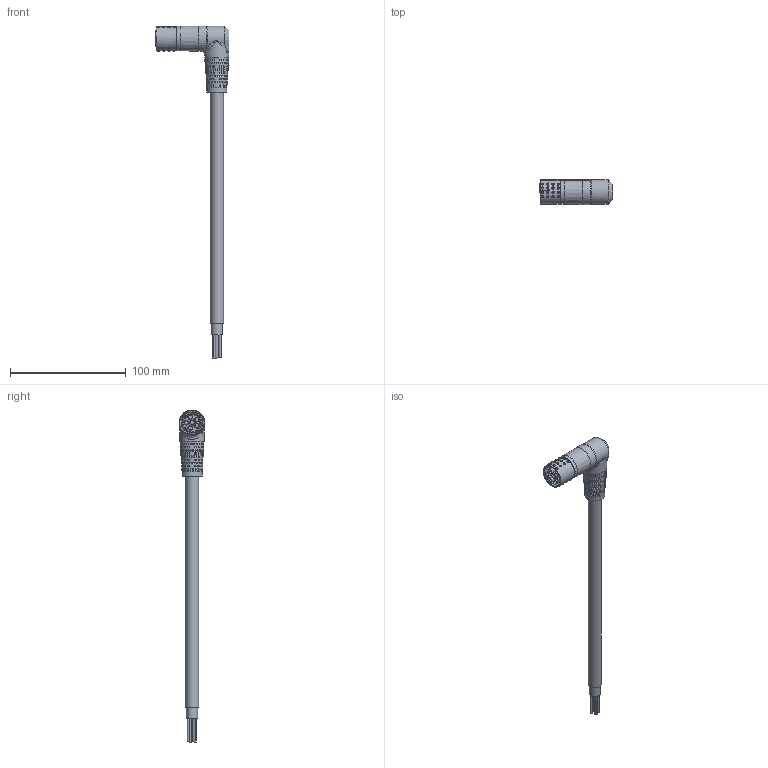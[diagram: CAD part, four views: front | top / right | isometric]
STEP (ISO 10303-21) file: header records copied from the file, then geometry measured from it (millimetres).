
FILE_DESCRIPTION (( 'STEP AP203' ), '1' );
FILE_NAME ('1162695_W-TEC_15M_GLATT_BU-90°L_STEP.STEP', '2023-09-05T12:58:01', ( '' ), ( '' ), 'SwSTEP 2.0', 'SolidWorks 2021', '' );
FILE_SCHEMA (( 'CONFIG_CONTROL_DESIGN' ));
Length unit declared in the file: millimetre
Products named in the file (1): 1162695_W-TEC_15M_GLATT_BU-90袂_STEP
Bounding box: 63.95 x 21.83 x 287.13 mm (x, y, z)
Surface area: 18369.4 mm2 (no closed solid volume)
Topology: 0 solids, 23 shells, 412 faces, 1620 edges, 1151 vertices
Faces by surface type: bspline 235, plane 75, cylinder 70, cone 29, torus 3
Full cylindrical faces by diameter (mm): 1.2 x2, 2 x3, 3.3 x6, 4.2 x3, 9.2 x1, 9.8 x1, 11.6 x1, 16.8 x1, 17.397 x1, 21.038 x1, 21.72 x1
Entity records: 34033 total; most frequent: CARTESIAN_POINT 23894, ORIENTED_EDGE 2324, EDGE_CURVE 1535, DIRECTION 1236, VERTEX_POINT 1133, B_SPLINE_CURVE_WITH_KNOTS 847, EDGE_LOOP 514, AXIS2_PLACEMENT_3D 479
